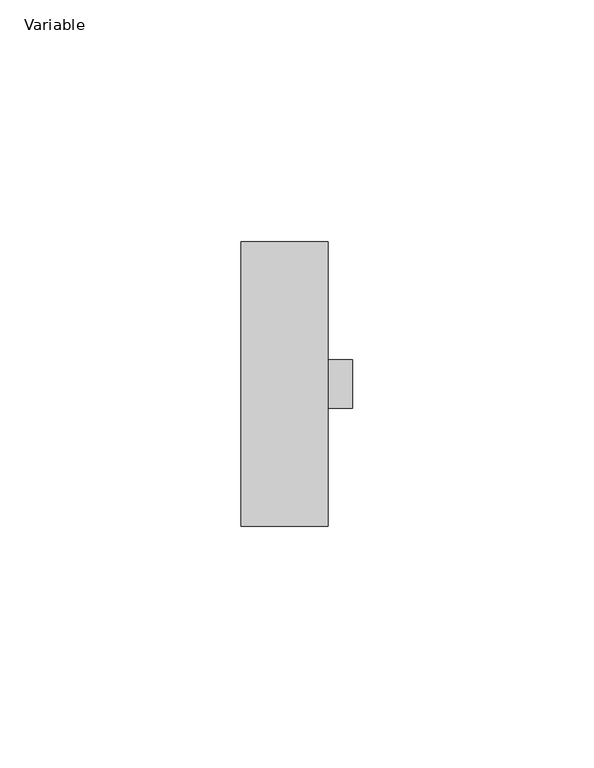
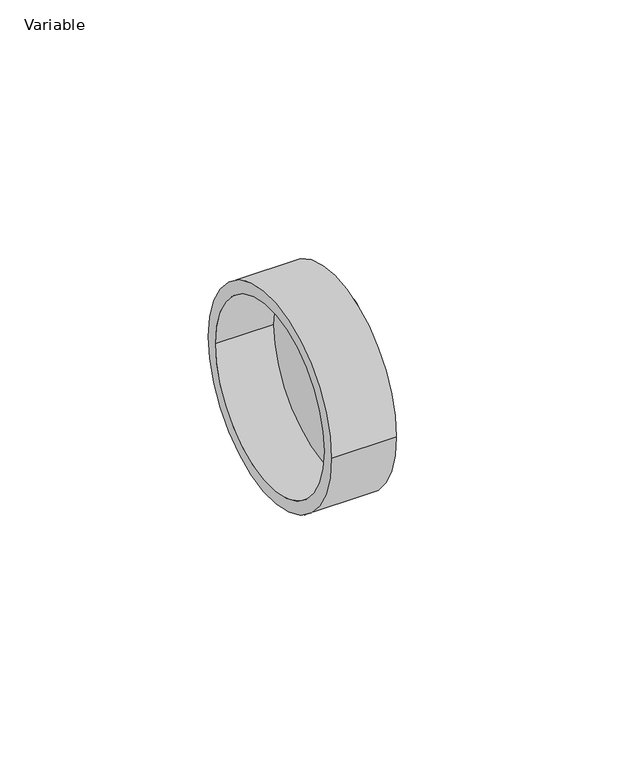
"""IFC4 building model written with IfcOpenShell, lengths in millimetres: pipe fitting geometry, AliaxisFR_Friaphon_ScrewCap_FR : Variable."""

from ifc_helpers import new_model, si_unit, point, frame, frame_2d, origin, place, context, project, spatial, polyline, circle_curve, trimmed, segment, composite_curve, outline, extrude, source, transform, mapped, element, save
from ifc_brep_helpers import plane_surface, cylinder_surface, revolved_surface, advanced_brep


def variable_b4140f98(model_context):
    return source(origin(), model_context, "Body", "SolidModel", [
        extrude(outline(composite_curve([segment(trimmed(circle_curve(frame_2d((0.0, 16.0)), 5.0), [point((-5.0, 16.0))], [point((5.0, 16.0))], False, "CARTESIAN"), True, "CONTINUOUS"), segment(trimmed(circle_curve(frame_2d((0.0, 16.0)), 5.0), [point((5.0, 16.0))], [point((-5.0, 16.0))], False, "CARTESIAN"), True, "CONTINUOUS")], self_intersect=False), holes=[composite_curve([segment(trimmed(circle_curve(frame_2d((0.0, 16.0)), 3.0), [point((-3.0, 16.0))], [point((3.0, 16.0))], True, "CARTESIAN"), True, "CONTINUOUS"), segment(trimmed(circle_curve(frame_2d((0.0, 16.0)), 3.0), [point((3.0, 16.0))], [point((-3.0, 16.0))], True, "CARTESIAN"), True, "CONTINUOUS")], self_intersect=False)]), frame((18.0, 0.0, 0.0), z_axis=(1.0, 0.0, 0.0), x_axis=(0.0, 1.0, 0.0)), (0.0, 0.0, 1.0), 5.0),
        extrude(outline(composite_curve([segment(trimmed(circle_curve(frame_2d((0.0, -16.0)), 5.0), [point((-5.0, -16.0))], [point((5.0, -16.0))], False, "CARTESIAN"), True, "CONTINUOUS"), segment(trimmed(circle_curve(frame_2d((0.0, -16.0)), 5.0), [point((5.0, -16.0))], [point((-5.0, -16.0))], False, "CARTESIAN"), True, "CONTINUOUS")], self_intersect=False), holes=[composite_curve([segment(trimmed(circle_curve(frame_2d((0.0, -16.0)), 3.0), [point((-3.0, -16.0))], [point((3.0, -16.0))], True, "CARTESIAN"), True, "CONTINUOUS"), segment(trimmed(circle_curve(frame_2d((0.0, -16.0)), 3.0), [point((3.0, -16.0))], [point((-3.0, -16.0))], True, "CARTESIAN"), True, "CONTINUOUS")], self_intersect=False)]), frame((18.0, 0.0, 0.0), z_axis=(1.0, 0.0, 0.0), x_axis=(0.0, 1.0, 0.0)), (0.0, 0.0, 1.0), 5.0),
        advanced_brep(
        [(18.0, -29.5, 0.0), (18.0, 29.5, 0.0), (0.0, -29.5, 0.0), (0.0, 29.5, 0.0), (0.0, -26.0, 0.0), (0.0, 26.0, 0.0), (16.125, -26.0, 0.0), (16.125, 26.0, 0.0)],
        [
            (0, 1, circle_curve(frame((18.0, 0.0, 0.0), z_axis=(1.0, 0.0, 0.0), x_axis=(0.0, 1.0, 0.0)), 29.5)),
            (1, 0, circle_curve(frame((18.0, 0.0, 0.0), z_axis=(1.0, 0.0, 0.0), x_axis=(0.0, 1.0, 0.0)), 29.5)),
            (2, 3, circle_curve(frame((0.0, 0.0, 0.0), z_axis=(-1.0, 0.0, 0.0), x_axis=(0.0, 1.0, 0.0)), 29.5)),
            (3, 2, circle_curve(frame((0.0, 0.0, 0.0), z_axis=(-1.0, 0.0, 0.0), x_axis=(0.0, 1.0, 0.0)), 29.5)),
            (4, 5, circle_curve(frame((0.0, 0.0, 0.0), z_axis=(1.0, 0.0, 0.0), x_axis=(0.0, 1.0, 0.0)), 26.0)),
            (5, 4, circle_curve(frame((0.0, 0.0, 0.0), z_axis=(1.0, 0.0, 0.0), x_axis=(0.0, 1.0, 0.0)), 26.0)),
            (0, 2),
            (3, 1),
            (6, 7, circle_curve(frame((16.125, 0.0, 0.0), z_axis=(-1.0, 0.0, 0.0), x_axis=(0.0, 1.0, 0.0)), 26.0)),
            (7, 6, circle_curve(frame((16.125, 0.0, 0.0), z_axis=(-1.0, 0.0, 0.0), x_axis=(0.0, 1.0, 0.0)), 26.0)),
            (7, 5),
            (4, 6),
        ],
        [
            plane_surface(frame((18.0, 29.5, 0.0), z_axis=(1.0, 0.0, 0.0), x_axis=(0.0, 0.0, 1.0))),
            plane_surface(frame((0.0, 29.5, 0.0), z_axis=(-1.0, 0.0, 0.0), x_axis=(0.0, 0.0, -1.0))),
            cylinder_surface(frame((0.0, 0.0, 0.0), z_axis=(1.0, 0.0, 0.0), x_axis=(0.0, 1.0, 0.0)), 29.5),
            plane_surface(frame((16.125, 26.0, 0.0), z_axis=(-1.0, 0.0, 0.0), x_axis=(0.0, 0.0, 1.0))),
            revolved_surface(polyline([(16.125, 26.0, 0.0), (0.0, 26.0, 0.0)]), (0.0, 0.0, 0.0), (1.0, 0.0, 0.0)),
        ],
        [
            (0, [[1, 2]]),
            (1, [[3, 4], [5, 6]]),
            (2, [[-1, 7, -4, 8]]),
            (2, [[-2, -8, -3, -7]]),
            (3, [[9, 10]]),
            (4, [[-10, 11, -5, 12]]),
            (4, [[-9, -12, -6, -11]]),
        ],
    ),
    ])


if __name__ == "__main__":
    model = new_model("IFC4")
    model_context = context("Model", 3, world=origin())
    ifc_project = project(units=[si_unit("LENGTHUNIT", "METRE", prefix="MILLI")], contexts=[model_context])
    site = spatial("IfcSite", under=ifc_project)
    building = spatial("IfcBuilding", under=site)
    placement = place(None, origin())
    variable_shape = variable_b4140f98(model_context)
    element("IfcPipeFitting", 1, ObjectType="AliaxisFR_Friaphon_ScrewCap_FR : Variable", at=placement, inside=building, context=model_context, shape_type="MappedRepresentation", body=[
        mapped(variable_shape, transform((0.0, 0.0, 0.0), x_axis=(1.0, 0.0, 0.0), y_axis=(0.0, 1.0, 0.0), z_axis=(0.0, 0.0, 1.0))),
    ])
    save(model, "model.ifc")
